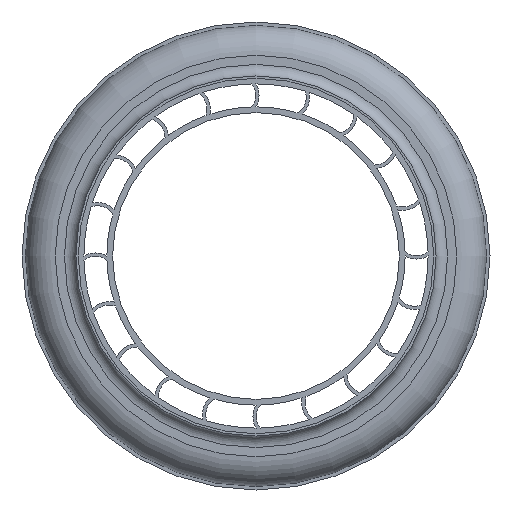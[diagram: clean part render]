
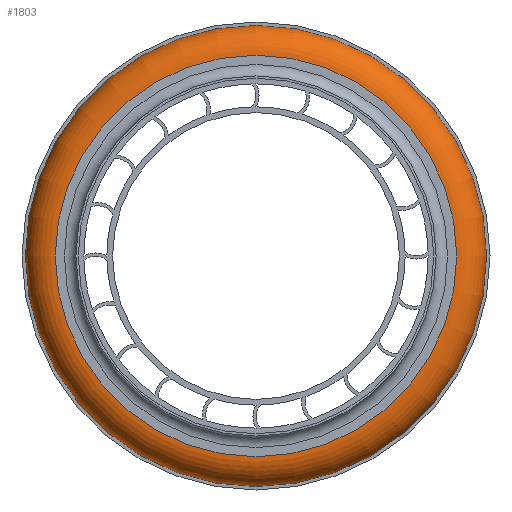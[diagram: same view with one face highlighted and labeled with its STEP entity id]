
A CAD part, left-side view. The second image highlights one B-rep face of the part: STEP entity #1803.
In plain terms, the highlighted toroidal (fillet/blend) face has major radius 175 mm and minor radius 26 mm.
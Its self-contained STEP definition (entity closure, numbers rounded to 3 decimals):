
#180=TOROIDAL_SURFACE('',#1926,175.,26.);
#199=FACE_BOUND('',#378,.T.);
#265=FACE_OUTER_BOUND('',#377,.T.);
#377=EDGE_LOOP('',(#1187));
#378=EDGE_LOOP('',(#1188));
#541=CIRCLE('',#1920,201.);
#544=CIRCLE('',#1925,175.);
#727=VERTEX_POINT('',#2883);
#730=VERTEX_POINT('',#2891);
#913=EDGE_CURVE('',#727,#727,#541,.T.);
#916=EDGE_CURVE('',#730,#730,#544,.T.);
#1187=ORIENTED_EDGE('',*,*,#913,.F.);
#1188=ORIENTED_EDGE('',*,*,#916,.T.);
#1803=ADVANCED_FACE('',(#265,#199),#180,.T.);
#1920=AXIS2_PLACEMENT_3D('',#2884,#2222,#2223);
#1925=AXIS2_PLACEMENT_3D('',#2892,#2232,#2233);
#1926=AXIS2_PLACEMENT_3D('',#2893,#2234,#2235);
#2222=DIRECTION('center_axis',(1.,0.,0.));
#2223=DIRECTION('ref_axis',(0.,0.,-1.));
#2232=DIRECTION('center_axis',(1.,0.,0.));
#2233=DIRECTION('ref_axis',(0.,0.,-1.));
#2234=DIRECTION('center_axis',(1.,0.,0.));
#2235=DIRECTION('ref_axis',(0.,0.,-1.));
#2883=CARTESIAN_POINT('',(58.,201.,0.));
#2884=CARTESIAN_POINT('Origin',(58.,0.,0.));
#2891=CARTESIAN_POINT('',(32.,175.,0.));
#2892=CARTESIAN_POINT('Origin',(32.,0.,0.));
#2893=CARTESIAN_POINT('Origin',(58.,0.,0.));
